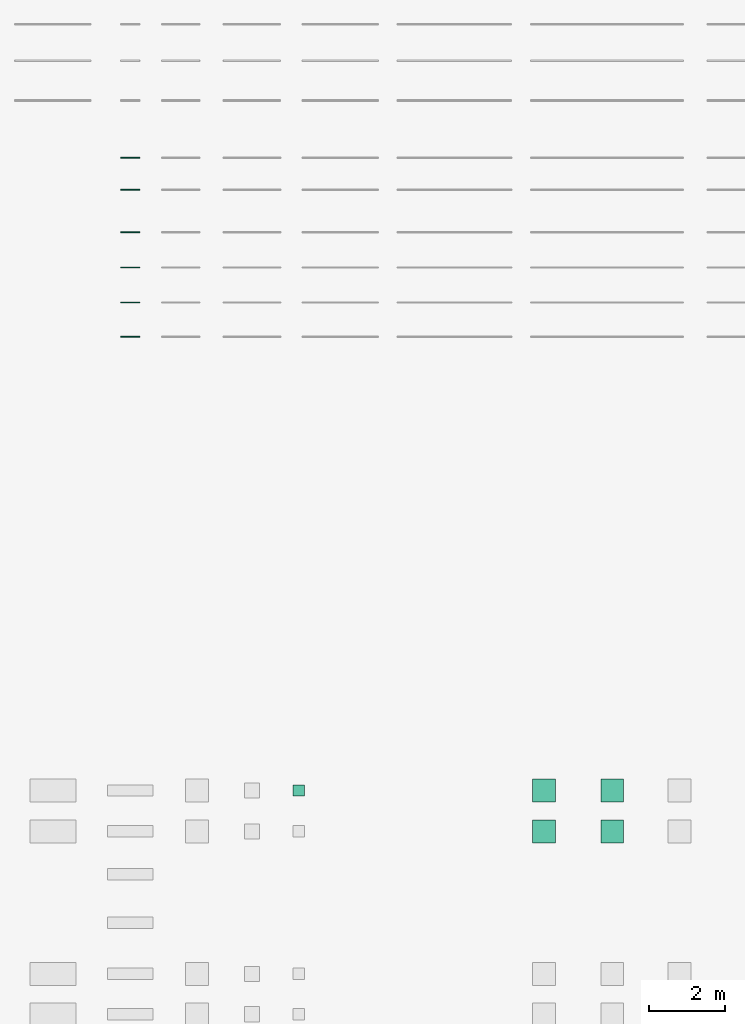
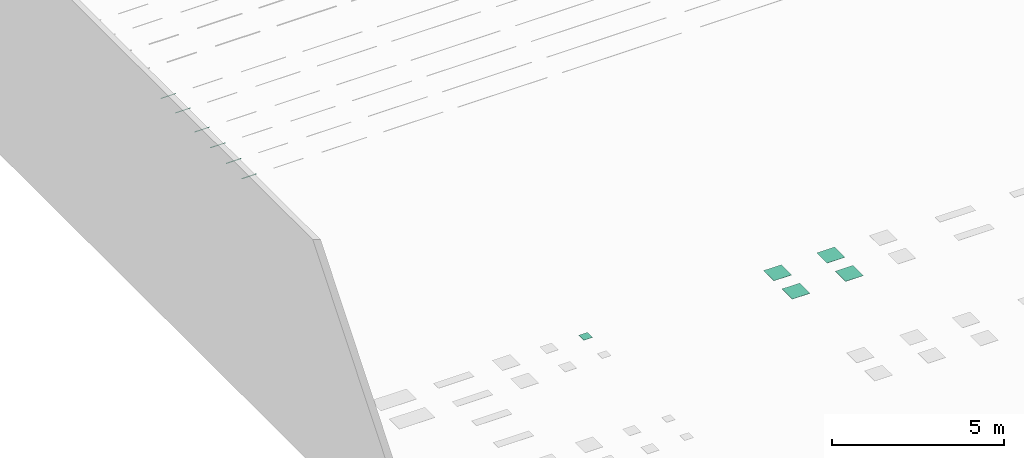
# One storey, part 20 of 197: 11 flow terminals.
"""IFC2X3 building model written with IfcOpenShell, lengths in metres."""

import ifcopenshell
import ifcopenshell.guid

model = None  # the IFC model being written
_history = None  # IfcOwnerHistory: only IFC2X3 demands one
_inside = {}  # id of a spatial element -> (the spatial element, [elements in it])
_under = {}  # id of a project, library or spatial element -> (it, [spatial elements below it])
_declared = {}  # id of a project -> (the project, [libraries it declares])
_typed = {}  # id of a type object -> (the type object, [elements of that type])
_made_of = {}  # id of a material, layer set ... -> (it, [elements and type objects made of it])


def new_model(schema):
    """Start an empty IFC model of exactly this schema.

    Asked for "IFC4X3", IfcOpenShell would pick the latest addendum, in which some entities
    have other attributes; the version numbers below select the first issue.
    IFC2X3 requires an IfcOwnerHistory on every rooted entity: one is made here for all.
    """
    global model, _history
    if schema == "IFC4X3":
        model = ifcopenshell.file(schema_version=(4, 3, 0, 0))
    else:
        model = ifcopenshell.file(schema=schema)
    _inside.clear()
    _under.clear()
    _declared.clear()
    _typed.clear()
    _made_of.clear()
    _history = None
    if model.schema == "IFC2X3":
        org = make("IfcOrganization", Name="unknown")
        user = make(
            "IfcPersonAndOrganization",
            ThePerson=make("IfcPerson", FamilyName="unknown"),
            TheOrganization=org,
        )
        app = make(
            "IfcApplication",
            ApplicationDeveloper=org,
            Version="unknown",
            ApplicationFullName="unknown",
            ApplicationIdentifier="unknown",
        )
        _history = make(
            "IfcOwnerHistory",
            OwningUser=user,
            OwningApplication=app,
            ChangeAction="ADDED",
            CreationDate=0,
        )
    return model


def make(cls, **values):
    """One entity of the class cls with the attributes given. An attribute that is None is left unset."""
    return model.create_entity(
        cls, **{name: value for name, value in values.items() if value is not None}
    )


def entity(cls, *values):
    """Any entity or typed value of the class cls, its attributes in the order of the schema. None: left unset."""
    e = model.create_entity(cls)
    for i, value in enumerate(values):
        if value is not None:
            e[i] = value
    return e


def rooted(cls, **values):
    """An entity with a GlobalId (a new one), such as an element, a storey or a relation."""
    return make(cls, GlobalId=ifcopenshell.guid.new(), OwnerHistory=_history, **values)


def si_unit(unit_type, name, prefix=None):
    """IfcSIUnit, for example si_unit("LENGTHUNIT", "METRE", prefix="MILLI")."""
    return make("IfcSIUnit", UnitType=unit_type, Prefix=prefix, Name=name)


def converted_unit(unit_type, name, factor, base, dimensions=None, offset=None):
    """IfcConversionBasedUnit, such as the inch: factor (a typed value) times the base unit."""
    return make(
        "IfcConversionBasedUnit"
        if offset is None
        else "IfcConversionBasedUnitWithOffset",
        ConversionOffset=offset,
        Dimensions=None
        if dimensions is None
        else entity("IfcDimensionalExponents", *dimensions),
        UnitType=unit_type,
        Name=name,
        ConversionFactor=make(
            "IfcMeasureWithUnit", ValueComponent=factor, UnitComponent=base
        ),
    )


def assignment(units):
    """IfcUnitAssignment: the units of a project."""
    return None if units is None else make("IfcUnitAssignment", Units=units)


def point(xyz):
    """IfcCartesianPoint."""
    return None if xyz is None else make("IfcCartesianPoint", Coordinates=xyz)


def direction(xyz):
    """IfcDirection."""
    return None if xyz is None else make("IfcDirection", DirectionRatios=xyz)


def frame(location, z_axis=None, x_axis=None):
    """IfcAxis2Placement3D, a coordinate frame: its origin and axes. An axis left out is left unset."""
    return make(
        "IfcAxis2Placement3D",
        Location=point(location),
        Axis=direction(z_axis),
        RefDirection=direction(x_axis),
    )


def frame_2d(location, x_axis=None):
    """IfcAxis2Placement2D, a coordinate frame in the plane: its origin and x axis."""
    return make(
        "IfcAxis2Placement2D", Location=point(location), RefDirection=direction(x_axis)
    )


def origin():
    """The frame at (0, 0, 0) with its axes left unset."""
    return frame((0.0, 0.0, 0.0))


def origin_2d_with_axis():
    """The frame at (0, 0) in the plane with the x axis (1, 0) written out."""
    return frame_2d((0.0, 0.0), x_axis=(1.0, 0.0))


def place(relative_to, where):
    """IfcLocalPlacement: puts the frame where relative to a parent placement (None: the world)."""
    return make(
        "IfcLocalPlacement", PlacementRelTo=relative_to, RelativePlacement=where
    )


def context(
    kind, dimensions, precision=None, world=None, true_north=None, identifier=None
):
    """IfcGeometricRepresentationContext, for example the 3D "Model" context."""
    return make(
        "IfcGeometricRepresentationContext",
        ContextIdentifier=identifier,
        ContextType=kind,
        CoordinateSpaceDimension=dimensions,
        Precision=precision,
        WorldCoordinateSystem=world,
        TrueNorth=true_north,
    )


def subcontext(parent, identifier, kind, view, scale=None):
    """IfcGeometricRepresentationSubContext, for example "Body" below "Model"."""
    return make(
        "IfcGeometricRepresentationSubContext",
        ContextIdentifier=identifier,
        ContextType=kind,
        ParentContext=parent,
        TargetScale=scale,
        TargetView=view,
    )


def project(units=None, contexts=None):
    """IfcProject with its units and contexts."""
    return rooted(
        "IfcProject",
        Name="project",
        RepresentationContexts=contexts,
        UnitsInContext=assignment(units),
    )


def spatial(cls, under=None, at=None, **own):
    """A site, building, storey or space (cls), placed at a placement, below another one or the project."""
    s = rooted(cls, ObjectPlacement=at, **own)
    if under is not None:
        _under.setdefault(under.id(), (under, []))[1].append(s)
    return s


def polyline(points):
    """IfcPolyline through the points."""
    return make("IfcPolyline", Points=[point(p) for p in points])


def profile(cls, at=None, kind="AREA", **sizes):
    """A parametric profile (cls). Its sizes go by their IFC names, for example OverallWidth=200.0."""
    return make(cls, ProfileType=kind, Position=at, **sizes)


def rectangle(**sizes):
    """IfcRectangleProfileDef."""
    return profile("IfcRectangleProfileDef", **sizes)


def circle(**sizes):
    """IfcCircleProfileDef."""
    return profile("IfcCircleProfileDef", **sizes)


def outline(outer, holes=None, kind="AREA"):
    """IfcArbitraryClosedProfileDef: a profile drawn as a closed curve; with holes, ...WithVoids."""
    if holes is None:
        return make("IfcArbitraryClosedProfileDef", ProfileType=kind, OuterCurve=outer)
    return make(
        "IfcArbitraryProfileDefWithVoids",
        ProfileType=kind,
        OuterCurve=outer,
        InnerCurves=holes,
    )


def extrude(swept, where, along, depth):
    """IfcExtrudedAreaSolid: the profile swept, set in the frame where, extruded along a direction by depth."""
    return make(
        "IfcExtrudedAreaSolid",
        SweptArea=swept,
        Position=where,
        ExtrudedDirection=direction(along),
        Depth=depth,
    )


def shape(context_of_items, identifier, shape_type, items):
    """IfcShapeRepresentation: the items that make up one representation, for example the "Body"."""
    return make(
        "IfcShapeRepresentation",
        ContextOfItems=context_of_items,
        RepresentationIdentifier=identifier,
        RepresentationType=shape_type,
        Items=items,
    )


def source(mapping_origin, context_of_items, identifier, shape_type, items):
    """IfcRepresentationMap: a shape defined once, which mapped items show again and again."""
    return make(
        "IfcRepresentationMap",
        MappingOrigin=mapping_origin,
        MappedRepresentation=shape(context_of_items, identifier, shape_type, items),
    )


def transform(
    local_origin,
    x_axis=None,
    y_axis=None,
    z_axis=None,
    scale=None,
    scale2=None,
    scale3=None,
    uniform=True,
):
    """IfcCartesianTransformationOperator3D, or its non-uniform kind. x_axis, y_axis, z_axis: its Axis1, 2, 3."""
    if uniform:
        return make(
            "IfcCartesianTransformationOperator3D",
            Axis1=direction(x_axis),
            Axis2=direction(y_axis),
            LocalOrigin=point(local_origin),
            Scale=scale,
            Axis3=direction(z_axis),
        )
    return make(
        "IfcCartesianTransformationOperator3DnonUniform",
        Axis1=direction(x_axis),
        Axis2=direction(y_axis),
        LocalOrigin=point(local_origin),
        Scale=scale,
        Axis3=direction(z_axis),
        Scale2=scale2,
        Scale3=scale3,
    )


def mapped(mapping_source, mapping_target):
    """IfcMappedItem: shows the shape of a source again, moved by a transform."""
    return make(
        "IfcMappedItem", MappingSource=mapping_source, MappingTarget=mapping_target
    )


def material(Name=None, Category=None):
    """IfcMaterial."""
    return make("IfcMaterial", Name=Name, Category=Category)


def material_list(materials):
    """IfcMaterialList."""
    return make("IfcMaterialList", Materials=materials)


def made_of(thing, what):
    """Note that an element or type object is made of a material, layer set ...; save() writes the relation."""
    if what is not None:
        _made_of.setdefault(what.id(), (what, []))[1].append(thing)
    return thing


def type_object(cls, material=None, **own):
    """A type object (cls), such as IfcWallType, which elements share."""
    return made_of(rooted(cls, **own), material)


def type_shapes(of_type, sources):
    """Give a type object the sources (RepresentationMaps) that its elements show as mapped items."""
    of_type.RepresentationMaps = sources


def element(
    cls,
    number,
    at=None,
    inside=None,
    cuts=None,
    type_object=None,
    material=None,
    context=None,
    identifier="Body",
    shape_type=None,
    held_by="IfcProductDefinitionShape",
    body=None,
    shapes=None,
    **own,
):
    """One element of the class cls, such as IfcWall. Its Tag is "e" and its number.

    at: its placement. inside: the storey or other place that contains it. cuts: it is an
    opening in that element (IfcRelVoidsElement). A single representation is given by context,
    identifier, shape_type and body (its items); several are given by shapes. held_by: the class
    of the entity that holds the representations. save() writes the other relations.
    """
    e = rooted(cls, Tag="e%d" % number, ObjectPlacement=at, **own)
    if body is not None:
        shapes = [shape(context, identifier, shape_type, body)]
    if shapes is not None:
        e.Representation = make(held_by, Representations=shapes)
    if inside is not None:
        _inside.setdefault(inside.id(), (inside, []))[1].append(e)
    if cuts is not None:
        rooted(
            "IfcRelVoidsElement", RelatingBuildingElement=cuts, RelatedOpeningElement=e
        )
    if type_object is not None:
        _typed.setdefault(type_object.id(), (type_object, []))[1].append(e)
    return made_of(e, material)


def aggregate(whole, parts):
    """IfcRelAggregates: a whole, such as a stair, and the parts it consists of."""
    return rooted("IfcRelAggregates", RelatingObject=whole, RelatedObjects=parts)


def save(model, path):
    """Write the relations noted so far, then the file.

    IfcRelAggregates (storeys below a building ...), IfcRelContainedInSpatialStructure (elements
    in a storey), IfcRelDefinesByType, IfcRelAssociatesMaterial and IfcRelDeclares: one each for
    every whole, place, type object, material and project.
    """
    for whole, parts in _under.values():
        aggregate(whole, parts)
    for where, things in _inside.values():
        rooted(
            "IfcRelContainedInSpatialStructure",
            RelatedElements=things,
            RelatingStructure=where,
        )
    for kind, things in _typed.values():
        rooted("IfcRelDefinesByType", RelatedObjects=things, RelatingType=kind)
    for what, things in _made_of.values():
        rooted("IfcRelAssociatesMaterial", RelatedObjects=things, RelatingMaterial=what)
    for by, libraries in _declared.values():
        rooted("IfcRelDeclares", RelatingContext=by, RelatedDefinitions=libraries)
    model.write(path)


model = new_model("IFC2X3")

# Units and contexts
model_context = context("Model", 3, precision=1e-05, world=origin(), true_north=direction((6.123031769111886e-17, 1.0)))
body_context = subcontext(model_context, "Body", "Model", "MODEL_VIEW")
ifc_project = project(units=[si_unit("LENGTHUNIT", "METRE"), converted_unit("PLANEANGLEUNIT", "DEGREE", entity("IfcPlaneAngleMeasure", 0.017453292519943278), si_unit("PLANEANGLEUNIT", "RADIAN"), dimensions=[0, 0, 0, 0, 0, 0, 0]), si_unit("AREAUNIT", "SQUARE_METRE")], contexts=[model_context])

# Site, building, storey
site_placement = place(None, origin())
site = spatial("IfcSite", under=ifc_project, at=site_placement, Name="Default", CompositionType="ELEMENT")
building_placement = place(site_placement, origin())
building = spatial("IfcBuilding", under=site, at=building_placement, CompositionType="ELEMENT")
storey_placement = place(building_placement, origin())
storey = spatial("IfcBuildingStorey", under=building, at=storey_placement, Name="Niveau 0", CompositionType="ELEMENT", Elevation=0.0)

# Flow terminals
ifc_material_1 = material(Name="BETCE-DIFFUSEUR-BLANC")
ifc_material_2 = material(Name="<Unnamed>")
ifc_material_list_1 = material_list([ifc_material_1, ifc_material_2])
light_fixture_type_1 = type_object("IfcLightFixtureType", Name="Profilé alu sailli_suspendu_engravure-20X20:PROF-SAILLIE -0.5M", PredefinedType="NOTDEFINED", material=ifc_material_list_1)
shared_shape_1 = source(origin(), body_context, "Body", "SweptSolid", [
    extrude(rectangle(XDim=0.496, YDim=0.018935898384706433, at=frame_2d((-1.3877787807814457e-17, 0.0), x_axis=(1.0, 0.0))), frame((0.0, 0.0, 1.4999999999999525), z_axis=(0.0, 0.0, 1.0), x_axis=(-1.0, 0.0, 0.0)), (0.0, 0.0, 1.0), 0.0008000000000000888),
    extrude(outline(polyline([(0.004349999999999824, -0.009467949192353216), (0.0051499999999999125, -0.009467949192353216), (0.0051499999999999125, 0.009467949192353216), (0.004349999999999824, 0.009467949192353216), (0.004349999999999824, 0.010467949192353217), (-0.0138500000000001, 0.010467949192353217), (-0.0138500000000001, -0.010467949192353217), (0.004349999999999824, -0.010467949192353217), (0.004349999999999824, -0.009467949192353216)])), frame((0.24799999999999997, 0.0, 1.5051499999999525), z_axis=(1.0, 0.0, 0.0), x_axis=(0.0, 0.0, -1.0)), (0.0, 0.0, 1.0), 0.0019999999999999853),
    extrude(outline(polyline([(0.009467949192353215, -0.004349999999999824), (0.010467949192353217, -0.004349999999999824), (0.010467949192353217, 0.0138500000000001), (-0.010467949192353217, 0.0138500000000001), (-0.010467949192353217, -0.004349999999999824), (-0.009467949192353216, -0.004349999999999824), (-0.009467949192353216, -0.0051499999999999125), (0.009467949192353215, -0.0051499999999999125), (0.009467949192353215, -0.004349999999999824)])), frame((-0.25, 0.0, 1.5051499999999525), z_axis=(1.0, 0.0, 0.0), x_axis=(0.0, 1.0, 0.0)), (0.0, 0.0, 1.0), 0.0019999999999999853),
    extrude(outline(polyline([(-0.012292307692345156, -0.011500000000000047), (0.007707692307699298, -0.011500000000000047), (0.007707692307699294, -0.009467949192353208), (0.0069076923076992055, -0.009467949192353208), (0.006907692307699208, -0.010467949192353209), (-0.011292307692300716, -0.010467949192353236), (-0.011292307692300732, 0.0), (-0.011292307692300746, 0.010467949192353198), (0.006907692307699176, 0.010467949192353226), (0.006907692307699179, 0.009467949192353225), (0.0077076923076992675, 0.009467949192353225), (0.007707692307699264, 0.011500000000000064), (-0.012292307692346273, 0.011500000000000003), (-0.012292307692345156, -0.011500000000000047)])), frame((-0.25, 0.0, 1.5077076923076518), z_axis=(1.0, 0.0, 0.0), x_axis=(0.0, 0.0, -1.0)), (0.0, 0.0, 1.0), 0.5),
    extrude(circle(Radius=0.0019999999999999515, at=frame_2d((1.5388467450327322e-29, 0.0), x_axis=(1.0, 0.0))), frame((-0.14999999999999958, 0.0, 1.5199999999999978), z_axis=(0.0, 0.0, 1.0), x_axis=(0.0, -1.0, 0.0)), (0.0, 0.0, 1.0), 0.0010000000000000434),
    extrude(circle(Radius=0.0019999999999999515, at=frame_2d((-4.123551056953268e-20, 0.0), x_axis=(1.0, 0.0))), frame((0.15000000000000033, 0.0, 1.5199999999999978), z_axis=(0.0, 0.0, 1.0), x_axis=(0.0, -1.0, 0.0)), (0.0, 0.0, 1.0), 0.0010000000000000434),
])
type_shapes(light_fixture_type_1, [shared_shape_1])
flow_terminal_1_placement = place(storey_placement, frame((-535.9987105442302, 64.29268111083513, 0.0)))
element("IfcFlowTerminal", 1, at=flow_terminal_1_placement, inside=storey, type_object=light_fixture_type_1, material=ifc_material_list_1, Name="Profilé alu sailli_suspendu_engravure-20X20:PROF-SAILLIE -0.5M", ObjectType="Profilé alu sailli_suspendu_engravure-20X20:PROF-SAILLIE -0.5M", context=body_context, shape_type="MappedRepresentation", body=[
    mapped(shared_shape_1, transform((0.0, 0.0, 0.0), scale=1.0)),
])
light_fixture_type_2 = type_object("IfcLightFixtureType", Name="Profilé alu sailli_suspendu_engravure-20X20:PROF-SAILLIE DALI -0.5M", PredefinedType="NOTDEFINED", material=ifc_material_list_1)
shared_shape_2 = source(origin(), body_context, "Body", "SweptSolid", [
    extrude(rectangle(XDim=0.496, YDim=0.018935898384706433, at=frame_2d((-1.3877787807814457e-17, 0.0), x_axis=(1.0, 0.0))), frame((0.0, 0.0, 1.4999999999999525), z_axis=(0.0, 0.0, 1.0), x_axis=(-1.0, 0.0, 0.0)), (0.0, 0.0, 1.0), 0.0008000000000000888),
    extrude(outline(polyline([(0.004349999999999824, -0.009467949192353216), (0.0051499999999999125, -0.009467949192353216), (0.0051499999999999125, 0.009467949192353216), (0.004349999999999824, 0.009467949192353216), (0.004349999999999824, 0.010467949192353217), (-0.0138500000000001, 0.010467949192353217), (-0.0138500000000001, -0.010467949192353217), (0.004349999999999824, -0.010467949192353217), (0.004349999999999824, -0.009467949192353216)])), frame((0.24799999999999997, 0.0, 1.5051499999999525), z_axis=(1.0, 0.0, 0.0), x_axis=(0.0, 0.0, -1.0)), (0.0, 0.0, 1.0), 0.0019999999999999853),
    extrude(outline(polyline([(0.009467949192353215, -0.004349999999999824), (0.010467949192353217, -0.004349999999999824), (0.010467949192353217, 0.0138500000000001), (-0.010467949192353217, 0.0138500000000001), (-0.010467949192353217, -0.004349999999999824), (-0.009467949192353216, -0.004349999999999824), (-0.009467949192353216, -0.0051499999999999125), (0.009467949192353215, -0.0051499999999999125), (0.009467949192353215, -0.004349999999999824)])), frame((-0.25, 0.0, 1.5051499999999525), z_axis=(1.0, 0.0, 0.0), x_axis=(0.0, 1.0, 0.0)), (0.0, 0.0, 1.0), 0.0019999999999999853),
    extrude(outline(polyline([(-0.012292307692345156, -0.011500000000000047), (0.007707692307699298, -0.011500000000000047), (0.007707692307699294, -0.009467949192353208), (0.0069076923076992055, -0.009467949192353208), (0.006907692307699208, -0.010467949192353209), (-0.011292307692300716, -0.010467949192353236), (-0.011292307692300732, 0.0), (-0.011292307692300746, 0.010467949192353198), (0.006907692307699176, 0.010467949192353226), (0.006907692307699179, 0.009467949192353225), (0.0077076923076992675, 0.009467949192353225), (0.007707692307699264, 0.011500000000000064), (-0.012292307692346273, 0.011500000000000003), (-0.012292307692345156, -0.011500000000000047)])), frame((-0.25, 0.0, 1.5077076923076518), z_axis=(1.0, 0.0, 0.0), x_axis=(0.0, 0.0, -1.0)), (0.0, 0.0, 1.0), 0.5),
    extrude(circle(Radius=0.0019999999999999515, at=frame_2d((1.5388467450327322e-29, 0.0), x_axis=(1.0, 0.0))), frame((-0.14999999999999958, 0.0, 1.5199999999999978), z_axis=(0.0, 0.0, 1.0), x_axis=(0.0, -1.0, 0.0)), (0.0, 0.0, 1.0), 0.0010000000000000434),
    extrude(circle(Radius=0.0019999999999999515, at=frame_2d((-4.123551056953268e-20, 0.0), x_axis=(1.0, 0.0))), frame((0.15000000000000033, 0.0, 1.5199999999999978), z_axis=(0.0, 0.0, 1.0), x_axis=(0.0, -1.0, 0.0)), (0.0, 0.0, 1.0), 0.0010000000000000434),
])
type_shapes(light_fixture_type_2, [shared_shape_2])
flow_terminal_2_placement = place(storey_placement, frame((-535.9987105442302, 63.44635524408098, 0.0)))
element("IfcFlowTerminal", 2, at=flow_terminal_2_placement, inside=storey, type_object=light_fixture_type_2, material=ifc_material_list_1, Name="Profilé alu sailli_suspendu_engravure-20X20:PROF-SAILLIE DALI -0.5M", ObjectType="Profilé alu sailli_suspendu_engravure-20X20:PROF-SAILLIE DALI -0.5M", context=body_context, shape_type="MappedRepresentation", body=[
    mapped(shared_shape_2, transform((0.0, 0.0, 0.0), scale=1.0)),
])
light_fixture_type_3 = type_object("IfcLightFixtureType", Name="Profilé alu sailli_suspendu_engravure-20X20:PROF-SUSPENDU -0.5M", PredefinedType="NOTDEFINED", material=ifc_material_list_1)
shared_shape_3 = source(origin(), body_context, "Body", "SweptSolid", [
    extrude(rectangle(XDim=0.496, YDim=0.018935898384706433, at=frame_2d((-1.3877787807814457e-17, 0.0), x_axis=(1.0, 0.0))), frame((0.0, 0.0, 1.4999999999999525), z_axis=(0.0, 0.0, 1.0), x_axis=(-1.0, 0.0, 0.0)), (0.0, 0.0, 1.0), 0.0008000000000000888),
    extrude(outline(polyline([(0.004349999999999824, -0.009467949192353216), (0.0051499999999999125, -0.009467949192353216), (0.0051499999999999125, 0.009467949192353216), (0.004349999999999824, 0.009467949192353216), (0.004349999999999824, 0.010467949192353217), (-0.0138500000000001, 0.010467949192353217), (-0.0138500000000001, -0.010467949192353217), (0.004349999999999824, -0.010467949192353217), (0.004349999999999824, -0.009467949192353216)])), frame((0.24799999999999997, 0.0, 1.5051499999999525), z_axis=(1.0, 0.0, 0.0), x_axis=(0.0, 0.0, -1.0)), (0.0, 0.0, 1.0), 0.0019999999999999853),
    extrude(outline(polyline([(0.009467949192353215, -0.004349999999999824), (0.010467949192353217, -0.004349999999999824), (0.010467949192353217, 0.0138500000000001), (-0.010467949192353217, 0.0138500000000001), (-0.010467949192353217, -0.004349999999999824), (-0.009467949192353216, -0.004349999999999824), (-0.009467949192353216, -0.0051499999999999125), (0.009467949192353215, -0.0051499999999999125), (0.009467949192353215, -0.004349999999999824)])), frame((-0.25, 0.0, 1.5051499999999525), z_axis=(1.0, 0.0, 0.0), x_axis=(0.0, 1.0, 0.0)), (0.0, 0.0, 1.0), 0.0019999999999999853),
    extrude(outline(polyline([(-0.012292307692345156, -0.011500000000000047), (0.007707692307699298, -0.011500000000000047), (0.007707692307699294, -0.009467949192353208), (0.0069076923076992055, -0.009467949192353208), (0.006907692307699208, -0.010467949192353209), (-0.011292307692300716, -0.010467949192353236), (-0.011292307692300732, 0.0), (-0.011292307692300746, 0.010467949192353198), (0.006907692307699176, 0.010467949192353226), (0.006907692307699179, 0.009467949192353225), (0.0077076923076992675, 0.009467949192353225), (0.007707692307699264, 0.011500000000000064), (-0.012292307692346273, 0.011500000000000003), (-0.012292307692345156, -0.011500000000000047)])), frame((-0.25, 0.0, 1.5077076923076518), z_axis=(1.0, 0.0, 0.0), x_axis=(0.0, 0.0, -1.0)), (0.0, 0.0, 1.0), 0.5),
    extrude(circle(Radius=0.0019999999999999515, at=frame_2d((1.5388467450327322e-29, 0.0), x_axis=(1.0, 0.0))), frame((-0.14999999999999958, 0.0, 1.5199999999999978), z_axis=(0.0, 0.0, 1.0), x_axis=(0.0, -1.0, 0.0)), (0.0, 0.0, 1.0), 0.0010000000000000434),
    extrude(circle(Radius=0.0019999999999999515, at=frame_2d((-4.123551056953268e-20, 0.0), x_axis=(1.0, 0.0))), frame((0.15000000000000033, 0.0, 1.5199999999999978), z_axis=(0.0, 0.0, 1.0), x_axis=(0.0, -1.0, 0.0)), (0.0, 0.0, 1.0), 0.0010000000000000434),
])
type_shapes(light_fixture_type_3, [shared_shape_3])
flow_terminal_3_placement = place(storey_placement, frame((-535.9987105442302, 62.331355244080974, 0.0)))
element("IfcFlowTerminal", 3, at=flow_terminal_3_placement, inside=storey, type_object=light_fixture_type_3, material=ifc_material_list_1, Name="Profilé alu sailli_suspendu_engravure-20X20:PROF-SUSPENDU -0.5M", ObjectType="Profilé alu sailli_suspendu_engravure-20X20:PROF-SUSPENDU -0.5M", context=body_context, shape_type="MappedRepresentation", body=[
    mapped(shared_shape_3, transform((0.0, 0.0, 0.0), scale=1.0)),
])
light_fixture_type_4 = type_object("IfcLightFixtureType", Name="Profilé alu sailli_suspendu_engravure-20X20:PROF-SUSPENDU DALI -0.5M", PredefinedType="NOTDEFINED", material=ifc_material_list_1)
shared_shape_4 = source(origin(), body_context, "Body", "SweptSolid", [
    extrude(rectangle(XDim=0.496, YDim=0.018935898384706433, at=frame_2d((-1.3877787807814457e-17, 0.0), x_axis=(1.0, 0.0))), frame((0.0, 0.0, 1.4999999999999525), z_axis=(0.0, 0.0, 1.0), x_axis=(-1.0, 0.0, 0.0)), (0.0, 0.0, 1.0), 0.0008000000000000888),
    extrude(outline(polyline([(0.004349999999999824, -0.009467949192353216), (0.0051499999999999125, -0.009467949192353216), (0.0051499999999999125, 0.009467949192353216), (0.004349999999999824, 0.009467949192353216), (0.004349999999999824, 0.010467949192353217), (-0.0138500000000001, 0.010467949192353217), (-0.0138500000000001, -0.010467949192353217), (0.004349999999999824, -0.010467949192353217), (0.004349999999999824, -0.009467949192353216)])), frame((0.24799999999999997, 0.0, 1.5051499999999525), z_axis=(1.0, 0.0, 0.0), x_axis=(0.0, 0.0, -1.0)), (0.0, 0.0, 1.0), 0.0019999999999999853),
    extrude(outline(polyline([(0.009467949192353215, -0.004349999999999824), (0.010467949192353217, -0.004349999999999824), (0.010467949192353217, 0.0138500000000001), (-0.010467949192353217, 0.0138500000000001), (-0.010467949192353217, -0.004349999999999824), (-0.009467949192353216, -0.004349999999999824), (-0.009467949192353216, -0.0051499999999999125), (0.009467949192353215, -0.0051499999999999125), (0.009467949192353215, -0.004349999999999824)])), frame((-0.25, 0.0, 1.5051499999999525), z_axis=(1.0, 0.0, 0.0), x_axis=(0.0, 1.0, 0.0)), (0.0, 0.0, 1.0), 0.0019999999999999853),
    extrude(outline(polyline([(-0.012292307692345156, -0.011500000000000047), (0.007707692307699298, -0.011500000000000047), (0.007707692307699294, -0.009467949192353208), (0.0069076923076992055, -0.009467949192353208), (0.006907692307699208, -0.010467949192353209), (-0.011292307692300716, -0.010467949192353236), (-0.011292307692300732, 0.0), (-0.011292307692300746, 0.010467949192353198), (0.006907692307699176, 0.010467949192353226), (0.006907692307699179, 0.009467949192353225), (0.0077076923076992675, 0.009467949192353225), (0.007707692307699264, 0.011500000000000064), (-0.012292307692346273, 0.011500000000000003), (-0.012292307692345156, -0.011500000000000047)])), frame((-0.25, 0.0, 1.5077076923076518), z_axis=(1.0, 0.0, 0.0), x_axis=(0.0, 0.0, -1.0)), (0.0, 0.0, 1.0), 0.5),
    extrude(circle(Radius=0.0019999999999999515, at=frame_2d((1.5388467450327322e-29, 0.0), x_axis=(1.0, 0.0))), frame((-0.14999999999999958, 0.0, 1.5199999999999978), z_axis=(0.0, 0.0, 1.0), x_axis=(0.0, -1.0, 0.0)), (0.0, 0.0, 1.0), 0.0010000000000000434),
    extrude(circle(Radius=0.0019999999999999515, at=frame_2d((-4.123551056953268e-20, 0.0), x_axis=(1.0, 0.0))), frame((0.15000000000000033, 0.0, 1.5199999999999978), z_axis=(0.0, 0.0, 1.0), x_axis=(0.0, -1.0, 0.0)), (0.0, 0.0, 1.0), 0.0010000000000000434),
])
type_shapes(light_fixture_type_4, [shared_shape_4])
flow_terminal_4_placement = place(storey_placement, frame((-535.9987105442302, 61.41235524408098, 0.0)))
element("IfcFlowTerminal", 4, at=flow_terminal_4_placement, inside=storey, type_object=light_fixture_type_4, material=ifc_material_list_1, Name="Profilé alu sailli_suspendu_engravure-20X20:PROF-SUSPENDU DALI -0.5M", ObjectType="Profilé alu sailli_suspendu_engravure-20X20:PROF-SUSPENDU DALI -0.5M", context=body_context, shape_type="MappedRepresentation", body=[
    mapped(shared_shape_4, transform((0.0, 0.0, 0.0), scale=1.0)),
])
light_fixture_type_5 = type_object("IfcLightFixtureType", Name="Profilé alu sailli_suspendu_engravure-20X20:PROF-ENGRAVURE -0.5M", PredefinedType="NOTDEFINED", material=ifc_material_list_1)
shared_shape_5 = source(origin(), body_context, "Body", "SweptSolid", [
    extrude(rectangle(XDim=0.496, YDim=0.018935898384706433, at=frame_2d((-1.3877787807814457e-17, 0.0), x_axis=(1.0, 0.0))), frame((0.0, 0.0, 1.4999999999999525), z_axis=(0.0, 0.0, 1.0), x_axis=(-1.0, 0.0, 0.0)), (0.0, 0.0, 1.0), 0.0008000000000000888),
    extrude(outline(polyline([(0.004349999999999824, -0.009467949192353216), (0.0051499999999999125, -0.009467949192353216), (0.0051499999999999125, 0.009467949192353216), (0.004349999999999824, 0.009467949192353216), (0.004349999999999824, 0.010467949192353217), (-0.0138500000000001, 0.010467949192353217), (-0.0138500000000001, -0.010467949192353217), (0.004349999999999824, -0.010467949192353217), (0.004349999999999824, -0.009467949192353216)])), frame((0.24799999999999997, 0.0, 1.5051499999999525), z_axis=(1.0, 0.0, 0.0), x_axis=(0.0, 0.0, -1.0)), (0.0, 0.0, 1.0), 0.0019999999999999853),
    extrude(outline(polyline([(0.009467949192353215, -0.004349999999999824), (0.010467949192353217, -0.004349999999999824), (0.010467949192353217, 0.0138500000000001), (-0.010467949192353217, 0.0138500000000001), (-0.010467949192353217, -0.004349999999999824), (-0.009467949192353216, -0.004349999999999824), (-0.009467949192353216, -0.0051499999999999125), (0.009467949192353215, -0.0051499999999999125), (0.009467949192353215, -0.004349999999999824)])), frame((-0.25, 0.0, 1.5051499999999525), z_axis=(1.0, 0.0, 0.0), x_axis=(0.0, 1.0, 0.0)), (0.0, 0.0, 1.0), 0.0019999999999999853),
    extrude(outline(polyline([(-0.012292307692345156, -0.011500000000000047), (0.007707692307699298, -0.011500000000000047), (0.007707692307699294, -0.009467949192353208), (0.0069076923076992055, -0.009467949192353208), (0.006907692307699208, -0.010467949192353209), (-0.011292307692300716, -0.010467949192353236), (-0.011292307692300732, 0.0), (-0.011292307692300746, 0.010467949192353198), (0.006907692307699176, 0.010467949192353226), (0.006907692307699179, 0.009467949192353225), (0.0077076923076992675, 0.009467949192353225), (0.007707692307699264, 0.011500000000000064), (-0.012292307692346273, 0.011500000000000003), (-0.012292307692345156, -0.011500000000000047)])), frame((-0.25, 0.0, 1.5077076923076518), z_axis=(1.0, 0.0, 0.0), x_axis=(0.0, 0.0, -1.0)), (0.0, 0.0, 1.0), 0.5),
    extrude(circle(Radius=0.0019999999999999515, at=frame_2d((1.5388467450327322e-29, 0.0), x_axis=(1.0, 0.0))), frame((-0.14999999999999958, 0.0, 1.5199999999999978), z_axis=(0.0, 0.0, 1.0), x_axis=(0.0, -1.0, 0.0)), (0.0, 0.0, 1.0), 0.0010000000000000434),
    extrude(circle(Radius=0.0019999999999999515, at=frame_2d((-4.123551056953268e-20, 0.0), x_axis=(1.0, 0.0))), frame((0.15000000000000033, 0.0, 1.5199999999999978), z_axis=(0.0, 0.0, 1.0), x_axis=(0.0, -1.0, 0.0)), (0.0, 0.0, 1.0), 0.0010000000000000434),
])
type_shapes(light_fixture_type_5, [shared_shape_5])
flow_terminal_5_placement = place(storey_placement, frame((-535.9987105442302, 60.49435524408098, 0.0)))
element("IfcFlowTerminal", 5, at=flow_terminal_5_placement, inside=storey, type_object=light_fixture_type_5, material=ifc_material_list_1, Name="Profilé alu sailli_suspendu_engravure-20X20:PROF-ENGRAVURE -0.5M", ObjectType="Profilé alu sailli_suspendu_engravure-20X20:PROF-ENGRAVURE -0.5M", context=body_context, shape_type="MappedRepresentation", body=[
    mapped(shared_shape_5, transform((0.0, 0.0, 0.0), scale=1.0)),
])
light_fixture_type_6 = type_object("IfcLightFixtureType", Name="Profilé alu sailli_suspendu_engravure-20X20:PROF-ENGRAVURE DALI -0.5M", PredefinedType="NOTDEFINED", material=ifc_material_list_1)
shared_shape_6 = source(origin(), body_context, "Body", "SweptSolid", [
    extrude(rectangle(XDim=0.496, YDim=0.018935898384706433, at=frame_2d((-1.3877787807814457e-17, 0.0), x_axis=(1.0, 0.0))), frame((0.0, 0.0, 1.4999999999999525), z_axis=(0.0, 0.0, 1.0), x_axis=(-1.0, 0.0, 0.0)), (0.0, 0.0, 1.0), 0.0008000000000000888),
    extrude(outline(polyline([(0.004349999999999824, -0.009467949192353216), (0.0051499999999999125, -0.009467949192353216), (0.0051499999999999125, 0.009467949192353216), (0.004349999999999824, 0.009467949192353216), (0.004349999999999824, 0.010467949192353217), (-0.0138500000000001, 0.010467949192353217), (-0.0138500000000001, -0.010467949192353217), (0.004349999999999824, -0.010467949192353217), (0.004349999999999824, -0.009467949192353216)])), frame((0.24799999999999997, 0.0, 1.5051499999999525), z_axis=(1.0, 0.0, 0.0), x_axis=(0.0, 0.0, -1.0)), (0.0, 0.0, 1.0), 0.0019999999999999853),
    extrude(outline(polyline([(0.009467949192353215, -0.004349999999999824), (0.010467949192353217, -0.004349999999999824), (0.010467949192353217, 0.0138500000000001), (-0.010467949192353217, 0.0138500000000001), (-0.010467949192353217, -0.004349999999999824), (-0.009467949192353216, -0.004349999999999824), (-0.009467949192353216, -0.0051499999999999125), (0.009467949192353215, -0.0051499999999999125), (0.009467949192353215, -0.004349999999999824)])), frame((-0.25, 0.0, 1.5051499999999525), z_axis=(1.0, 0.0, 0.0), x_axis=(0.0, 1.0, 0.0)), (0.0, 0.0, 1.0), 0.0019999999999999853),
    extrude(outline(polyline([(-0.012292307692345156, -0.011500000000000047), (0.007707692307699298, -0.011500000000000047), (0.007707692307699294, -0.009467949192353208), (0.0069076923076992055, -0.009467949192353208), (0.006907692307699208, -0.010467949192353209), (-0.011292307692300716, -0.010467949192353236), (-0.011292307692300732, 0.0), (-0.011292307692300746, 0.010467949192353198), (0.006907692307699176, 0.010467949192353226), (0.006907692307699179, 0.009467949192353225), (0.0077076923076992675, 0.009467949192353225), (0.007707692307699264, 0.011500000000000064), (-0.012292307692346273, 0.011500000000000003), (-0.012292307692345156, -0.011500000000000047)])), frame((-0.25, 0.0, 1.5077076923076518), z_axis=(1.0, 0.0, 0.0), x_axis=(0.0, 0.0, -1.0)), (0.0, 0.0, 1.0), 0.5),
    extrude(circle(Radius=0.0019999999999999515, at=frame_2d((1.5388467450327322e-29, 0.0), x_axis=(1.0, 0.0))), frame((-0.14999999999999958, 0.0, 1.5199999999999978), z_axis=(0.0, 0.0, 1.0), x_axis=(0.0, -1.0, 0.0)), (0.0, 0.0, 1.0), 0.0010000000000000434),
    extrude(circle(Radius=0.0019999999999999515, at=frame_2d((-4.123551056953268e-20, 0.0), x_axis=(1.0, 0.0))), frame((0.15000000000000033, 0.0, 1.5199999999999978), z_axis=(0.0, 0.0, 1.0), x_axis=(0.0, -1.0, 0.0)), (0.0, 0.0, 1.0), 0.0010000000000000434),
])
type_shapes(light_fixture_type_6, [shared_shape_6])
flow_terminal_6_placement = place(storey_placement, frame((-535.9987105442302, 59.59735524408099, 0.0)))
element("IfcFlowTerminal", 6, at=flow_terminal_6_placement, inside=storey, type_object=light_fixture_type_6, material=ifc_material_list_1, Name="Profilé alu sailli_suspendu_engravure-20X20:PROF-ENGRAVURE DALI -0.5M", ObjectType="Profilé alu sailli_suspendu_engravure-20X20:PROF-ENGRAVURE DALI -0.5M", context=body_context, shape_type="MappedRepresentation", body=[
    mapped(shared_shape_6, transform((0.0, 0.0, 0.0), scale=1.0)),
])
light_fixture_type_7 = type_object("IfcLightFixtureType", Name="Pavé LED encastré_saillie_suspendu:ENCASTRE - 300X300", PredefinedType="NOTDEFINED", material=ifc_material_2)
shared_shape_7 = source(origin(), body_context, "Body", "SweptSolid", [
    extrude(rectangle(XDim=0.26000000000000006, YDim=0.26, at=origin_2d_with_axis()), frame((0.0, 0.0, 1.5013367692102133), z_axis=(0.0, 0.0, 1.0), x_axis=(-1.0, 0.0, 0.0)), (0.0, 0.0, 1.0), 0.008663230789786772),
    extrude(outline(polyline([(-0.15000000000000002, -0.15), (0.15000000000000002, -0.15), (0.15000000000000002, 0.15), (-0.15000000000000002, 0.15), (-0.15000000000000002, -0.15)]), holes=[polyline([(0.13000000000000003, -0.13), (-0.13000000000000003, -0.13), (-0.13000000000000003, 0.13), (0.13000000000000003, 0.13), (0.13000000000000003, -0.13)])]), frame((0.0, 0.0, 1.499999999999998), z_axis=(0.0, 0.0, 1.0), x_axis=(-1.0, 0.0, 0.0)), (0.0, 0.0, 1.0), 0.010000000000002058),
    extrude(circle(Radius=0.0014999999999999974, at=origin_2d_with_axis()), frame((0.1399999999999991, -0.14000000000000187, 1.51)), (0.0, 0.0, 1.0), 0.0010000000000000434),
    extrude(circle(Radius=0.0014999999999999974, at=origin_2d_with_axis()), frame((0.1399999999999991, 0.13999999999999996, 1.51)), (0.0, 0.0, 1.0), 0.0010000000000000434),
    extrude(circle(Radius=0.0014999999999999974, at=origin_2d_with_axis()), frame((-0.14000000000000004, 0.13999999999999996, 1.51)), (0.0, 0.0, 1.0), 0.0010000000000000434),
    extrude(circle(Radius=0.0014999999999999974, at=origin_2d_with_axis()), frame((-0.14000000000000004, -0.14000000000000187, 1.51)), (0.0, 0.0, 1.0), 0.0010000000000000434),
])
type_shapes(light_fixture_type_7, [shared_shape_7])
flow_terminal_7_placement = place(storey_placement, frame((-531.5807105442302, 47.699573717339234, 0.0)))
element("IfcFlowTerminal", 7, at=flow_terminal_7_placement, inside=storey, type_object=light_fixture_type_7, material=ifc_material_2, Name="Pavé LED encastré_saillie_suspendu:ENCASTRE - 300X300", ObjectType="Pavé LED encastré_saillie_suspendu:ENCASTRE - 300X300", context=body_context, shape_type="MappedRepresentation", body=[
    mapped(shared_shape_7, transform((0.0, 0.0, 0.0), scale=1.0)),
])
ifc_material_3 = material(Name="BETCE-ENVELOPPE-BLANC")
ifc_material_list_2 = material_list([ifc_material_2, ifc_material_1, ifc_material_3])
light_fixture_type_8 = type_object("IfcLightFixtureType", Name="Pavé LED lentille encastré_saillie_suspendu:ENCASTRE - 600X600 - 2L DE 8", PredefinedType="NOTDEFINED", material=ifc_material_list_2)
shared_shape_8 = source(origin(), body_context, "Body", "SweptSolid", [
    extrude(circle(Radius=0.0014999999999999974, at=origin_2d_with_axis()), frame((0.28999999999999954, -0.2900000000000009, 1.51)), (0.0, 0.0, 1.0), 0.0010000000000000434),
    extrude(circle(Radius=0.0014999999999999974, at=origin_2d_with_axis()), frame((0.28999999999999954, 0.2900000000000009, 1.51)), (0.0, 0.0, 1.0), 0.0010000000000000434),
    extrude(circle(Radius=0.0014999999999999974, at=origin_2d_with_axis()), frame((-0.28999999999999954, 0.2900000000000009, 1.51)), (0.0, 0.0, 1.0), 0.0010000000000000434),
    extrude(circle(Radius=0.0014999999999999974, at=origin_2d_with_axis()), frame((-0.28999999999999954, -0.2900000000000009, 1.51)), (0.0, 0.0, 1.0), 0.0010000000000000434),
    extrude(rectangle(XDim=0.56, YDim=0.56, at=origin_2d_with_axis()), frame((0.0, 0.0, 1.5013367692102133), z_axis=(0.0, 0.0, 1.0), x_axis=(-1.0, 0.0, 0.0)), (0.0, 0.0, 1.0), 0.008663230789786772),
    extrude(outline(polyline([(-0.30000000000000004, -0.30000000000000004), (0.30000000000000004, -0.30000000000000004), (0.30000000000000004, 0.30000000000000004), (-0.30000000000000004, 0.30000000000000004), (-0.30000000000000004, -0.30000000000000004)]), holes=[polyline([(0.28, -0.28), (-0.28, -0.28), (-0.28, 0.28), (0.28, 0.28), (0.28, -0.28)])]), frame((0.0, 0.0, 1.499999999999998), z_axis=(0.0, 0.0, 1.0), x_axis=(-1.0, 0.0, 0.0)), (0.0, 0.0, 1.0), 0.010000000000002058),
])
type_shapes(light_fixture_type_8, [shared_shape_8])
flow_terminal_8_placement = place(storey_placement, frame((-525.1467105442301, 47.699573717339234, 0.0)))
element("IfcFlowTerminal", 8, at=flow_terminal_8_placement, inside=storey, type_object=light_fixture_type_8, material=ifc_material_list_2, Name="Pavé LED lentille encastré_saillie_suspendu:ENCASTRE - 600X600 - 2L DE 8", ObjectType="Pavé LED lentille encastré_saillie_suspendu:ENCASTRE - 600X600 - 2L DE 8", context=body_context, shape_type="MappedRepresentation", body=[
    mapped(shared_shape_8, transform((0.0, 0.0, 0.0), scale=1.0)),
])
light_fixture_type_9 = type_object("IfcLightFixtureType", Name="Pavé LED lentille encastré_saillie_suspendu:ENCASTRE - 600X600 - 3L DE 8", PredefinedType="NOTDEFINED", material=ifc_material_list_2)
shared_shape_9 = source(origin(), body_context, "Body", "SweptSolid", [
    extrude(circle(Radius=0.0014999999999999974, at=origin_2d_with_axis()), frame((0.28999999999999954, -0.2900000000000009, 1.51)), (0.0, 0.0, 1.0), 0.0010000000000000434),
    extrude(circle(Radius=0.0014999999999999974, at=origin_2d_with_axis()), frame((0.28999999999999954, 0.2900000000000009, 1.51)), (0.0, 0.0, 1.0), 0.0010000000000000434),
    extrude(circle(Radius=0.0014999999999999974, at=origin_2d_with_axis()), frame((-0.28999999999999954, 0.2900000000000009, 1.51)), (0.0, 0.0, 1.0), 0.0010000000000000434),
    extrude(circle(Radius=0.0014999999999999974, at=origin_2d_with_axis()), frame((-0.28999999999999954, -0.2900000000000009, 1.51)), (0.0, 0.0, 1.0), 0.0010000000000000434),
    extrude(rectangle(XDim=0.56, YDim=0.56, at=origin_2d_with_axis()), frame((0.0, 0.0, 1.5013367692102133), z_axis=(0.0, 0.0, 1.0), x_axis=(-1.0, 0.0, 0.0)), (0.0, 0.0, 1.0), 0.008663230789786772),
    extrude(outline(polyline([(-0.30000000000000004, -0.30000000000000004), (0.30000000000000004, -0.30000000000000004), (0.30000000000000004, 0.30000000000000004), (-0.30000000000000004, 0.30000000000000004), (-0.30000000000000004, -0.30000000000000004)]), holes=[polyline([(0.28, -0.28), (-0.28, -0.28), (-0.28, 0.28), (0.28, 0.28), (0.28, -0.28)])]), frame((0.0, 0.0, 1.499999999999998), z_axis=(0.0, 0.0, 1.0), x_axis=(-1.0, 0.0, 0.0)), (0.0, 0.0, 1.0), 0.010000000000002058),
])
type_shapes(light_fixture_type_9, [shared_shape_9])
flow_terminal_9_placement = place(storey_placement, frame((-523.3607105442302, 47.699573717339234, 0.0)))
element("IfcFlowTerminal", 9, at=flow_terminal_9_placement, inside=storey, type_object=light_fixture_type_9, material=ifc_material_list_2, Name="Pavé LED lentille encastré_saillie_suspendu:ENCASTRE - 600X600 - 3L DE 8", ObjectType="Pavé LED lentille encastré_saillie_suspendu:ENCASTRE - 600X600 - 3L DE 8", context=body_context, shape_type="MappedRepresentation", body=[
    mapped(shared_shape_9, transform((0.0, 0.0, 0.0), scale=1.0)),
])
light_fixture_type_10 = type_object("IfcLightFixtureType", Name="Pavé LED lentille encastré_saillie_suspendu:ENCASTRE DALI - 600X600 - 2L DE 8", PredefinedType="NOTDEFINED", material=ifc_material_list_2)
shared_shape_10 = source(origin(), body_context, "Body", "SweptSolid", [
    extrude(circle(Radius=0.0014999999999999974, at=origin_2d_with_axis()), frame((0.28999999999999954, -0.2900000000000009, 1.51)), (0.0, 0.0, 1.0), 0.0010000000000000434),
    extrude(circle(Radius=0.0014999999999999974, at=origin_2d_with_axis()), frame((0.28999999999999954, 0.2900000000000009, 1.51)), (0.0, 0.0, 1.0), 0.0010000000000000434),
    extrude(circle(Radius=0.0014999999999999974, at=origin_2d_with_axis()), frame((-0.28999999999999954, 0.2900000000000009, 1.51)), (0.0, 0.0, 1.0), 0.0010000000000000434),
    extrude(circle(Radius=0.0014999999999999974, at=origin_2d_with_axis()), frame((-0.28999999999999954, -0.2900000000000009, 1.51)), (0.0, 0.0, 1.0), 0.0010000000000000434),
    extrude(rectangle(XDim=0.56, YDim=0.56, at=origin_2d_with_axis()), frame((0.0, 0.0, 1.5013367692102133), z_axis=(0.0, 0.0, 1.0), x_axis=(-1.0, 0.0, 0.0)), (0.0, 0.0, 1.0), 0.008663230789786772),
    extrude(outline(polyline([(-0.30000000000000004, -0.30000000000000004), (0.30000000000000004, -0.30000000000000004), (0.30000000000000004, 0.30000000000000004), (-0.30000000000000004, 0.30000000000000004), (-0.30000000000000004, -0.30000000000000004)]), holes=[polyline([(0.28, -0.28), (-0.28, -0.28), (-0.28, 0.28), (0.28, 0.28), (0.28, -0.28)])]), frame((0.0, 0.0, 1.499999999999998), z_axis=(0.0, 0.0, 1.0), x_axis=(-1.0, 0.0, 0.0)), (0.0, 0.0, 1.0), 0.010000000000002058),
])
type_shapes(light_fixture_type_10, [shared_shape_10])
flow_terminal_10_placement = place(storey_placement, frame((-525.1467105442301, 46.627355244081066, 0.0)))
element("IfcFlowTerminal", 10, at=flow_terminal_10_placement, inside=storey, type_object=light_fixture_type_10, material=ifc_material_list_2, Name="Pavé LED lentille encastré_saillie_suspendu:ENCASTRE DALI - 600X600 - 2L DE 8", ObjectType="Pavé LED lentille encastré_saillie_suspendu:ENCASTRE DALI - 600X600 - 2L DE 8", context=body_context, shape_type="MappedRepresentation", body=[
    mapped(shared_shape_10, transform((0.0, 0.0, 0.0), scale=1.0)),
])
light_fixture_type_11 = type_object("IfcLightFixtureType", Name="Pavé LED lentille encastré_saillie_suspendu:ENCASTRE DALI - 600X600 - 3L DE 8", PredefinedType="NOTDEFINED", material=ifc_material_list_2)
shared_shape_11 = source(origin(), body_context, "Body", "SweptSolid", [
    extrude(circle(Radius=0.0014999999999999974, at=origin_2d_with_axis()), frame((0.28999999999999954, -0.2900000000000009, 1.51)), (0.0, 0.0, 1.0), 0.0010000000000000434),
    extrude(circle(Radius=0.0014999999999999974, at=origin_2d_with_axis()), frame((0.28999999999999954, 0.2900000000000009, 1.51)), (0.0, 0.0, 1.0), 0.0010000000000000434),
    extrude(circle(Radius=0.0014999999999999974, at=origin_2d_with_axis()), frame((-0.28999999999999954, 0.2900000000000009, 1.51)), (0.0, 0.0, 1.0), 0.0010000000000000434),
    extrude(circle(Radius=0.0014999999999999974, at=origin_2d_with_axis()), frame((-0.28999999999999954, -0.2900000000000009, 1.51)), (0.0, 0.0, 1.0), 0.0010000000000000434),
    extrude(rectangle(XDim=0.56, YDim=0.56, at=origin_2d_with_axis()), frame((0.0, 0.0, 1.5013367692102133), z_axis=(0.0, 0.0, 1.0), x_axis=(-1.0, 0.0, 0.0)), (0.0, 0.0, 1.0), 0.008663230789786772),
    extrude(outline(polyline([(-0.30000000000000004, -0.30000000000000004), (0.30000000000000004, -0.30000000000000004), (0.30000000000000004, 0.30000000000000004), (-0.30000000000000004, 0.30000000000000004), (-0.30000000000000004, -0.30000000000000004)]), holes=[polyline([(0.28, -0.28), (-0.28, -0.28), (-0.28, 0.28), (0.28, 0.28), (0.28, -0.28)])]), frame((0.0, 0.0, 1.499999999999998), z_axis=(0.0, 0.0, 1.0), x_axis=(-1.0, 0.0, 0.0)), (0.0, 0.0, 1.0), 0.010000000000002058),
])
type_shapes(light_fixture_type_11, [shared_shape_11])
flow_terminal_11_placement = place(storey_placement, frame((-523.3607105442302, 46.627355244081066, 0.0)))
element("IfcFlowTerminal", 11, at=flow_terminal_11_placement, inside=storey, type_object=light_fixture_type_11, material=ifc_material_list_2, Name="Pavé LED lentille encastré_saillie_suspendu:ENCASTRE DALI - 600X600 - 3L DE 8", ObjectType="Pavé LED lentille encastré_saillie_suspendu:ENCASTRE DALI - 600X600 - 3L DE 8", context=body_context, shape_type="MappedRepresentation", body=[
    mapped(shared_shape_11, transform((0.0, 0.0, 0.0), scale=1.0)),
])

save(model, "model.ifc")
